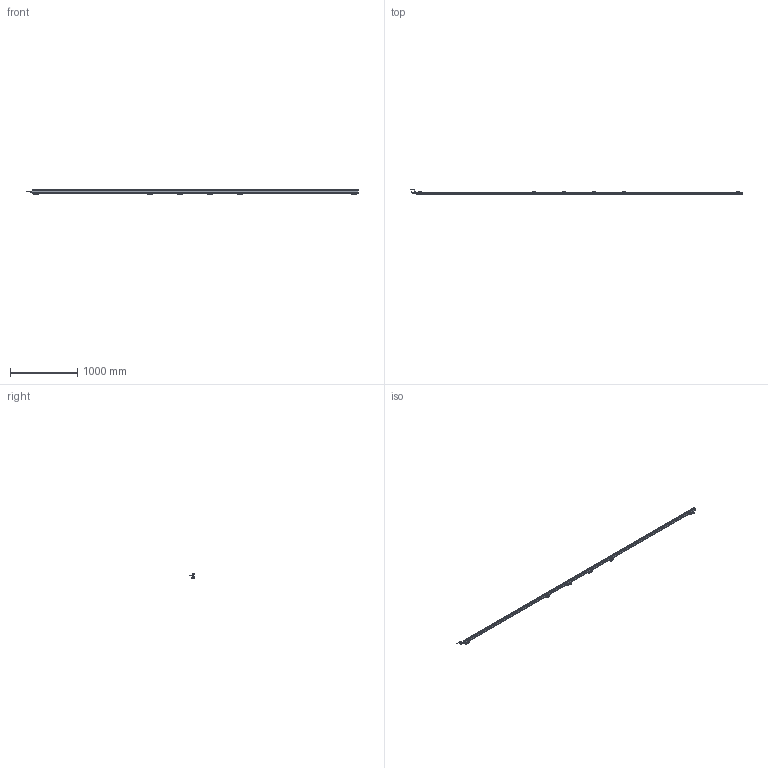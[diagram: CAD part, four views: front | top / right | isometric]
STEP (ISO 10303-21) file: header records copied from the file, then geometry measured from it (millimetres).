
FILE_DESCRIPTION(('Bauteilbeschreibung','HiCAD-Model','HiCAD-STEP-TRANSLATION','Bauteilbeschreibung'),'2;1');
FILE_NAME('PERFORMAXIQEASY_4770-4860_3D.STP','2014-03-05T13:50:53+00:00',('Konstrukteur'),('Konstrukteur Firma GmbH'),' HiCAD 2011, Step 1600.0 ','HiCAD 2011','confidential');
FILE_SCHEMA(('AUTOMOTIVE_DESIGN { 1 2 10303 214 0 1 1 1 }'));
Products named in the file (56): PERFORMAXIQEASY_4770_4860_3D; A_PERFORMAX IQ EASY 4770_4860; A_PERFORMAX IQ EASY SPEED; A_CAP DE; A_CAP CE_5; LED_2C_3MM; LED02C03MM; A519020315_CONNECTOR APPLIANCE; A_INSERT; A_CONTACTS; A_HOUSING; A_PROFILE; A_POTTING; PIN; PIN0; A532000100_BRACKET BARS_ MOUNT; A_SIDE PIECE; A0SIDE0PIECE; A_BRACKET SMALL; A_SLIDE PIECE; A5320001000BRACKET0BARS00MOUNT; A0SIDE0PIECE0; A0SIDE0PIECE1; A0BRACKET0SMALL; A0SLIDE0PIECE; A5320001000BRACKET0BARS00MOUNT0; A0SIDE0PIECE2; A0SIDE0PIECE3; A0BRACKET0SMALL0; A0SLIDE0PIECE0; A0SIDE0PIECE4; A0SIDE0PIECE5; A0BRACKET0SMALL1; A0SLIDE0PIECE1; A0SIDE0PIECE6; A0SIDE0PIECE7; A0BRACKET0SMALL2; A0SLIDE0PIECE2; A0SIDE0PIECE8; A0SIDE0PIECE9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
Assembly tree (55 placements, depth 5):
  PERFORMAXIQEASY_4770_4860_3D
    A_PERFORMAX IQ EASY 4770_4860
      A_PERFORMAX IQ EASY SPEED
        A_CAP DE
        A_CAP CE_5
        LED_2C_3MM
        LED02C03MM
        A519020315_CONNECTOR APPLIANCE
          A_INSERT
          A_CONTACTS
          A_HOUSING
        A_PROFILE
        A_POTTING
        PIN
        PIN0
      A532000100_BRACKET BARS_ MOUNT
        A_SIDE PIECE
        A0SIDE0PIECE
        A_BRACKET SMALL
        A_SLIDE PIECE
      A5320001000BRACKET0BARS00MOUNT
        A0SIDE0PIECE0
        A0SIDE0PIECE1
        A0BRACKET0SMALL
        A0SLIDE0PIECE
      A5320001000BRACKET0BARS00MOUNT0
        A0SIDE0PIECE2
        A0SIDE0PIECE3
        A0BRACKET0SMALL0
        A0SLIDE0PIECE0
      A5320001000BRACKET0BARS00MOUNT0
        A0SIDE0PIECE4
        A0SIDE0PIECE5
        A0BRACKET0SMALL1
        A0SLIDE0PIECE1
      A5320001000BRACKET0BARS00MOUNT0
        A0SIDE0PIECE6
        A0SIDE0PIECE7
        A0BRACKET0SMALL2
        A0SLIDE0PIECE2
      A5320001000BRACKET0BARS00MOUNT0
        A0SIDE0PIECE8
        A0SIDE0PIECE9
        A0BRACKET0SMALL3
        A0SLIDE0PIECE3
      A_CONNECTOR STRAIGHT
        EXTRUDED SOLID_0
        DRAAD GEBOGEN
        REVOLVED SOLID_1
        REVOLVED SOLID_3
      A_CONNECTOR ANGLED
        REVOLVED0SOLID01
        EXTRUDED0SOLID00
        C_EDGE SWEEP_0
        REVOLVED SOLID_2
        REVOLVED0SOLID03
Bounding box: 4937.89 x 84.28 x 63.13 mm (x, y, z)
Volume: 4972837.7 mm3; surface area: 1181837.2 mm2
Topology: 49 solids, 49 shells, 4983 faces, 12800 edges, 7585 vertices
Faces by surface type: cylinder 2137, plane 1879, sphere 332, torus 299, bspline 248, cone 88
Full cylindrical faces by diameter (mm): 0.8 x10, 1 x5, 2.387 x12, 3 x27, 3.1 x1, 4.2 x2, 5 x4, 5.5 x30, 8 x2, 8.2 x1, 8.4 x2, 8.945 x1, 9 x2, 10.2 x1, 10.5 x3, 11 x1, 12 x3, 12.8 x1, 13.8 x4, 14.5 x3
Entity records: 231105 total; most frequent: CARTESIAN_POINT 54548, DIRECTION 24777, ORIENTED_EDGE 24320, EDGE_CURVE 12160, COLOUR_RGB 11541, PRESENTATION_STYLE_ASSIGNMENT 11541, OVER_RIDING_STYLED_ITEM 11497, CURVE_STYLE 11492
